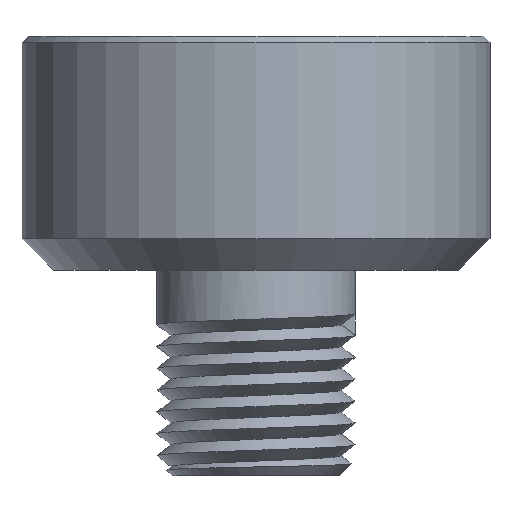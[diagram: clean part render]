
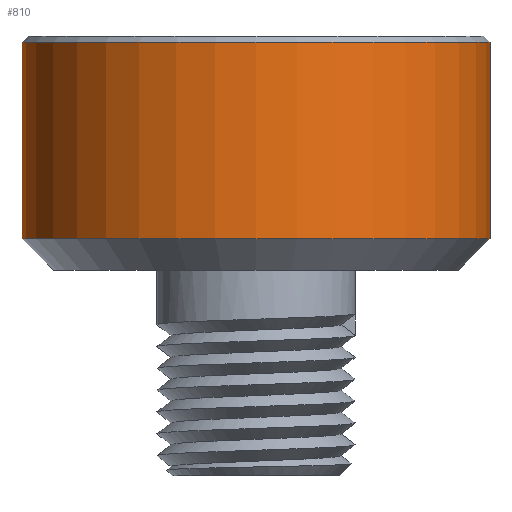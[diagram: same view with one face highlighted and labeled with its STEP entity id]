
A CAD part, front view. The second image highlights one B-rep face of the part: STEP entity #810.
In plain terms, the highlighted cylindrical face has radius 7.5 mm (diameter 15 mm), a partial arc.
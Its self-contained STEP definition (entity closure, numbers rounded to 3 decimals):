
#629 = ORIENTED_EDGE ( 'NONE', *, *, #791, .T. ) ;
#631 = ORIENTED_EDGE ( 'NONE', *, *, #689, .T. ) ;
#686 = EDGE_CURVE ( 'NONE', #710, #695, #1017, .T. ) ;
#689 = EDGE_CURVE ( 'NONE', #708, #698, #1013, .T. ) ;
#695 = VERTEX_POINT ( 'NONE', #1057 ) ;
#698 = VERTEX_POINT ( 'NONE', #1052 ) ;
#708 = VERTEX_POINT ( 'NONE', #1081 ) ;
#710 = VERTEX_POINT ( 'NONE', #1075 ) ;
#791 = EDGE_CURVE ( 'NONE', #698, #695, #1308, .T. ) ;
#810 = ADVANCED_FACE ( 'NONE', ( #1346 ), #1345, .T. ) ;
#811 = EDGE_LOOP ( 'NONE', ( #812, #813, #631, #629 ) ) ;
#812 = ORIENTED_EDGE ( 'NONE', *, *, #686, .F. ) ;
#813 = ORIENTED_EDGE ( 'NONE', *, *, #814, .T. ) ;
#814 = EDGE_CURVE ( 'NONE', #710, #708, #1344, .T. ) ;
#1011 = VECTOR ( 'NONE', #1066, 1000. ) ;
#1012 = CARTESIAN_POINT ( 'NONE',  ( -7.5, 0., 7.5 ) ) ;
#1013 = LINE ( 'NONE', #1012, #1011 ) ;
#1014 = DIRECTION ( 'NONE',  ( 0., 0., -1. ) ) ;
#1015 = VECTOR ( 'NONE', #1014, 1000. ) ;
#1016 = CARTESIAN_POINT ( 'NONE',  ( 7.5, 0., 7.5 ) ) ;
#1017 = LINE ( 'NONE', #1016, #1015 ) ;
#1052 = CARTESIAN_POINT ( 'NONE',  ( -7.5, 0., 1. ) ) ;
#1057 = CARTESIAN_POINT ( 'NONE',  ( 7.5, 0., 1. ) ) ;
#1066 = DIRECTION ( 'NONE',  ( 0., 0., -1. ) ) ;
#1075 = CARTESIAN_POINT ( 'NONE',  ( 7.5, 0., 7.3 ) ) ;
#1081 = CARTESIAN_POINT ( 'NONE',  ( -7.5, 0., 7.3 ) ) ;
#1304 = DIRECTION ( 'NONE',  ( 1., 0., 0. ) ) ;
#1305 = DIRECTION ( 'NONE',  ( 0., 0., 1. ) ) ;
#1306 = CARTESIAN_POINT ( 'NONE',  ( 0., 0., 1. ) ) ;
#1307 = AXIS2_PLACEMENT_3D ( 'NONE', #1306, #1305, #1304 ) ;
#1308 = CIRCLE ( 'NONE', #1307, 7.5 ) ;
#1336 = DIRECTION ( 'NONE',  ( 1., 0., 0. ) ) ;
#1337 = DIRECTION ( 'NONE',  ( 0., 0., -1. ) ) ;
#1338 = CARTESIAN_POINT ( 'NONE',  ( 0., 0., 7.3 ) ) ;
#1339 = AXIS2_PLACEMENT_3D ( 'NONE', #1338, #1337, #1336 ) ;
#1340 = DIRECTION ( 'NONE',  ( -1., 0., 0. ) ) ;
#1341 = DIRECTION ( 'NONE',  ( 0., 0., -1. ) ) ;
#1342 = CARTESIAN_POINT ( 'NONE',  ( 0., 0., 7.5 ) ) ;
#1343 = AXIS2_PLACEMENT_3D ( 'NONE', #1342, #1341, #1340 ) ;
#1344 = CIRCLE ( 'NONE', #1339, 7.5 ) ;
#1345 = CYLINDRICAL_SURFACE ( 'NONE', #1343, 7.5 ) ;
#1346 = FACE_OUTER_BOUND ( 'NONE', #811, .T. ) ;
